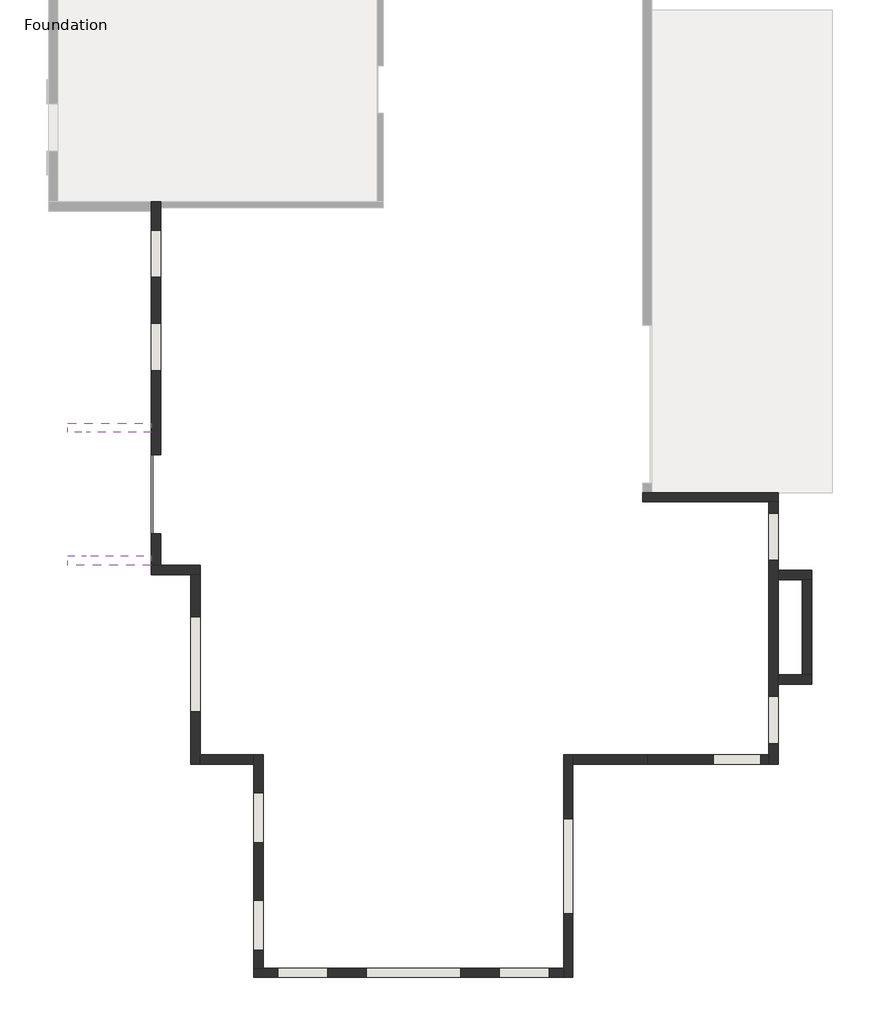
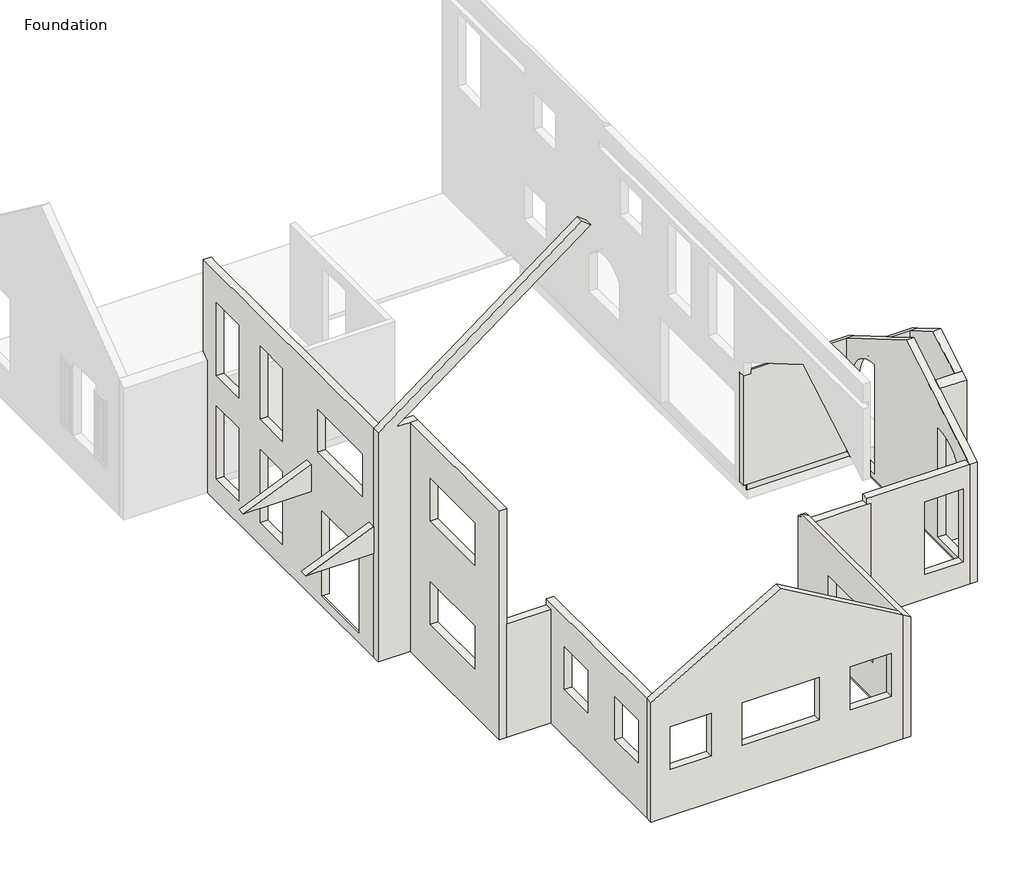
# One storey, part 1 of 2: 16 walls.
"""IFC4 building model written with IfcOpenShell, lengths in millimetres."""

from ifc_helpers import new_model, si_unit, frame, origin, place, context, project, spatial, polyline, circle_curve, outline, extrude, faceted_brep, element, save
from ifc_brep_helpers import plane_surface, revolved_surface, advanced_brep

model = new_model("IFC4")

# Units and contexts
model_context = context("Model", 3, world=origin())
ifc_project = project(units=[si_unit("LENGTHUNIT", "METRE", prefix="MILLI")], contexts=[model_context])

# Site, building, storey
site = spatial("IfcSite", under=ifc_project)
building = spatial("IfcBuilding", under=site)
storey = spatial("IfcBuildingStorey", under=building, Name="Foundation", Elevation=-254.0)

# Walls
placement = place(None, origin())
element("IfcWall", 1, ObjectType="Exterior - Wood Siding on Wood Stud", at=placement, inside=storey, context=model_context, shape_type="Brep", body=[
    faceted_brep([(1364.2519008, -3611.7827303, -254.0), (1821.4519008, -3611.7827303, -254.0), (2005.6019008, -3611.7827303, -254.0), (2005.6019008, -3611.7827303, 3724.8041667), (1821.4519008, -3611.7827303, 3724.8041667), (1364.2519008, -3611.7827303, 3724.8041667), (1364.2519008, -3427.6327303, -254.0), (1364.2519008, -3427.6327303, 3617.3833333), (2005.6019008, -3427.6327303, 3617.3833333), (2005.6019008, -3427.6327303, -254.0)], [[[0, 1, 2, 3, 4, 5]], [[6, 7, 8, 9]], [[2, 1, 0, 6, 9]], [[0, 5, 7, 6]], [[3, 2, 9, 8]], [[5, 4, 3, 8, 7]]]),
])
element("IfcWall", 2, ObjectType="Exterior - Wood Siding on Wood Stud", at=placement, inside=storey, context=model_context, shape_type="Brep", body=[
    faceted_brep([(1364.2519008, -5624.7327303, -254.0), (2005.6019008, -5624.7327303, -254.0), (2005.6019008, -5624.7327303, 3643.3125), (1364.2519008, -5624.7327303, 3643.3125), (1364.2519008, -5440.5827303, -254.0), (1364.2519008, -5440.5827303, 3750.7333333), (1821.4519008, -5440.5827303, 3750.7333333), (2005.6019008, -5440.5827303, 3750.7333333), (2005.6019008, -5440.5827303, -254.0), (1821.4519008, -5440.5827303, -254.0)], [[[0, 1, 2, 3]], [[4, 5, 6, 7, 8, 9]], [[1, 0, 4, 9, 8]], [[0, 3, 5, 4]], [[2, 1, 8, 7]], [[3, 2, 7, 6, 5]]]),
])
element("IfcWall", 3, ObjectType="Exterior - Wood Siding on Wood Stud", at=placement, inside=storey, context=model_context, shape_type="SweptSolid", body=[
    extrude(outline(polyline([(-5440.5827303, -254.0), (-5440.5827303, 3750.7333333), (-4548.4077303, 4271.16875), (-3611.7827303, 3724.8041667), (-3611.7827303, -254.0), (-5440.5827303, -254.0)])), frame((1821.4519008, 0.0, 0.0), z_axis=(1.0, 0.0, 0.0), x_axis=(0.0, 1.0, 0.0)), (0.0, 0.0, 1.0), 184.15),
])
element("IfcWall", 4, ObjectType="Siding For My House", at=placement, inside=storey, context=model_context, shape_type="Brep", body=[
    faceted_brep([(1364.2519008, -2110.0077303, -254.0), (1364.2519008, -2110.0077303, 2848.76875), (1183.2769008, -2110.0077303, 2848.76875), (-1074.1480992, -2110.0077303, 2848.76875), (-1074.1480992, -2110.0077303, 2743.2), (-1255.1230992, -2110.0077303, 2743.2), (-1255.1230992, -2110.0077303, 2590.8), (-1255.1230992, -2110.0077303, 2438.4), (-1255.1230992, -2110.0077303, 0.0), (1183.2769008, -2110.0077303, 0.0), (1335.6769008, -2110.0077303, 0.0), (1335.6769008, -2110.0077303, -254.0), (1364.2519008, -1929.0327303, 2743.2), (1364.2519008, -1929.0327303, -254.0), (-1074.1480992, -1929.0327303, -254.0), (-1102.7230992, -1929.0327303, -254.0), (-1102.7230992, -1929.0327303, 0.0), (-1255.1230992, -1929.0327303, 0.0), (-1255.1230992, -1929.0327303, 2743.2), (-1074.1480992, -1929.0327303, 2743.2), (-1102.7230992, -1957.6077303, 0.0), (1335.6769008, -1957.6077303, 0.0), (-1255.1230992, -1995.7077303, 0.0), (-1102.7230992, -1957.6077303, -254.0), (1335.6769008, -1957.6077303, -254.0)], [[[0, 1, 2, 3, 4, 5, 6, 7, 8, 9, 10, 11]], [[12, 13, 14, 15, 16, 17, 18, 19]], [[1, 0, 13, 12]], [[20, 21, 10, 9, 8, 22, 17, 16]], [[21, 20, 23, 24]], [[21, 24, 11, 10]], [[3, 2, 1, 12, 19]], [[23, 20, 16, 15]], [[13, 0, 11, 24, 23, 15, 14]], [[19, 18, 5, 4]], [[19, 4, 3]], [[5, 18, 17, 22, 8, 7, 6]]]),
])
element("IfcWall", 5, ObjectType="Siding For My House", at=placement, inside=storey, context=model_context, shape_type="AdvancedBrep", body=[
    advanced_brep(
    [(1183.2769008, -7167.7827303, -254.0), (1183.2769008, -7167.7827303, 2743.2), (1183.2769008, -4548.4077303, 4271.16875), (1183.2769008, -2110.0077303, 2848.76875), (1183.2769008, -2110.0077303, 0.0), (1183.2769008, -3611.7827303, 0.0), (1183.2769008, -3792.7577303, 0.0), (1183.2769008, -5259.6077303, 0.0), (1183.2769008, -5440.5827303, 0.0), (1183.2769008, -7139.2077303, 0.0), (1183.2769008, -7139.2077303, -254.0), (1183.2769008, -6772.4952303, 127.0), (1183.2769008, -5858.0952303, 127.0), (1183.2769008, -5858.0952303, 2870.2), (1183.2769008, -6772.4952303, 1955.8), (1183.2769008, -3238.7202303, 125.65196), (1183.2769008, -2324.3202303, 125.65196), (1183.2769008, -2324.3202303, 1954.45196), (1183.2769008, -3238.7202303, 2868.85196), (1364.2519008, -7167.7827303, -254.0), (1364.2519008, -5624.7327303, -254.0), (1364.2519008, -5440.5827303, -254.0), (1364.2519008, -3611.7827303, -254.0), (1364.2519008, -3427.6327303, -254.0), (1364.2519008, -2110.0077303, -254.0), (1364.2519008, -2110.0077303, 2848.76875), (1364.2519008, -3427.6327303, 3617.3833333), (1364.2519008, -3611.7827303, 3724.8041667), (1364.2519008, -4548.4077303, 4271.16875), (1364.2519008, -5440.5827303, 3750.7333333), (1364.2519008, -5624.7327303, 3643.3125), (1364.2519008, -7167.7827303, 2743.2), (1364.2519008, -5858.0952303, 127.0), (1364.2519008, -6772.4952303, 127.0), (1364.2519008, -6772.4952303, 1955.8), (1364.2519008, -5858.0952303, 2870.2), (1364.2519008, -2324.3202303, 125.65196), (1364.2519008, -3238.7202303, 125.65196), (1364.2519008, -3238.7202303, 2868.85196), (1364.2519008, -2324.3202303, 1954.45196), (1335.6769008, -7139.2077303, -254.0), (1335.6769008, -2110.0077303, -254.0), (1335.6769008, -2110.0077303, 0.0), (1335.6769008, -7139.2077303, 0.0)],
    [
        (0, 1),
        (1, 2),
        (2, 3),
        (3, 4),
        (4, 5),
        (5, 6),
        (6, 7),
        (7, 8),
        (8, 9),
        (9, 10),
        (10, 0),
        (11, 12),
        (12, 13),
        (13, 14, circle_curve(frame((1183.2769008, -5858.0952303, 1955.8), z_axis=(1.0, 0.0, 0.0), x_axis=(0.0, -1.0, 0.0)), 914.4)),
        (14, 11),
        (15, 16),
        (16, 17),
        (17, 18, circle_curve(frame((1183.2769008, -3238.7202303, 1954.45196), z_axis=(1.0, 0.0, 0.0), x_axis=(0.0, 1.0, 0.0)), 914.4)),
        (18, 15),
        (19, 20),
        (20, 21),
        (21, 22),
        (22, 23),
        (23, 24),
        (24, 25),
        (25, 26),
        (26, 27),
        (27, 28),
        (28, 29),
        (29, 30),
        (30, 31),
        (31, 19),
        (32, 33),
        (33, 34),
        (34, 35, circle_curve(frame((1364.2519008, -5858.0952303, 1955.8), z_axis=(-1.0, 0.0, 0.0), x_axis=(0.0, -1.0, 0.0)), 914.4)),
        (35, 32),
        (36, 37),
        (37, 38),
        (38, 39, circle_curve(frame((1364.2519008, -3238.7202303, 1954.45196), z_axis=(-1.0, 0.0, 0.0), x_axis=(0.0, 1.0, 0.0)), 914.4)),
        (39, 36),
        (19, 0),
        (10, 40),
        (40, 41),
        (41, 24),
        (3, 25),
        (41, 42),
        (42, 4),
        (31, 1),
        (42, 43),
        (43, 9),
        (40, 43),
        (32, 12),
        (11, 33),
        (14, 34),
        (13, 35),
        (15, 37),
        (36, 16),
        (39, 17),
        (38, 18),
        (2, 28),
    ],
    [
        plane_surface(frame((1183.2769008, -4073.1263801, -254.0), z_axis=(-1.0, 0.0, 0.0), x_axis=(0.0, -1.0, 0.0))),
        plane_surface(frame((1364.2519008, -4073.1263801, -254.0), z_axis=(1.0, 0.0, 0.0), x_axis=(0.0, 1.0, 0.0))),
        plane_surface(frame((1183.2769008, -2019.5202303, -254.0), z_axis=(0.0, 0.0, -1.0), x_axis=(1.0, 0.0, 0.0))),
        plane_surface(frame((6545.8519008, -2110.0077303, -254.0), z_axis=(0.0, 1.0, 0.0), x_axis=(1.0, 0.0, 0.0))),
        plane_surface(frame((9289.0519008, -7167.7827303, -254.0), z_axis=(0.0, -1.0, 0.0), x_axis=(1.0, 0.0, 0.0))),
        plane_surface(frame((-10703.9230992, 3665.3172697, 0.0), z_axis=(0.0, 0.0, -1.0), x_axis=(-1.0, 0.0, 0.0))),
        plane_surface(frame((1335.6769008, -1957.6077303, -254.0), z_axis=(-1.0, 0.0, 0.0), x_axis=(0.0, 0.0, 1.0))),
        plane_surface(frame((1335.6769008, -7139.2077303, -254.0), z_axis=(0.0, 1.0, 0.0), x_axis=(0.0, 0.0, 1.0))),
        plane_surface(frame((-340.7230992, -5858.0952303, 127.0), z_axis=(0.0, 0.0, 1.0), x_axis=(1.0, 0.0, 0.0))),
        plane_surface(frame((-340.7230992, -6772.4952303, 127.0), z_axis=(0.0, 1.0, 0.0), x_axis=(1.0, 0.0, 0.0))),
        revolved_surface(polyline([(1183.2769008, -6772.4952303, 1955.8), (1364.2519008, -6772.4952303, 1955.8)]), (2707.2769008, -5858.0952303, 1955.8), (-1.0, 0.0, 0.0)),
        plane_surface(frame((-340.7230992, -5858.0952303, 2870.2), z_axis=(0.0, -1.0, 0.0), x_axis=(1.0, 0.0, 0.0))),
        plane_surface(frame((2707.2769008, -3238.7202303, 125.65196), z_axis=(0.0, 0.0, 1.0), x_axis=(-1.0, 0.0, 0.0))),
        plane_surface(frame((2707.2769008, -2324.3202303, 125.65196), z_axis=(0.0, -1.0, 0.0), x_axis=(-1.0, 0.0, 0.0))),
        revolved_surface(polyline([(1364.2519008, -2324.3202303, 1954.45196), (1183.2769008, -2324.3202303, 1954.45196)]), (-340.7230992, -3238.7202303, 1954.45196), (1.0, 0.0, 0.0)),
        plane_surface(frame((2707.2769008, -3238.7202303, 2868.85196), z_axis=(0.0, 1.0, 0.0), x_axis=(-1.0, 0.0, 0.0))),
        plane_surface(frame((1364.2519008, -1624.2327303, 2565.4), z_axis=(0.0, 0.5038710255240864, 0.8637789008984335), x_axis=(-1.0, 0.0, 0.0))),
        plane_surface(frame((-1074.1480992, -7472.5827303, 2565.4), z_axis=(0.0, -0.5038710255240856, 0.8637789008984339), x_axis=(1.0, 0.0, 0.0))),
    ],
    [
        (0, [[1, 2, 3, 4, 5, 6, 7, 8, 9, 10, 11], [12, 13, 14, 15], [16, 17, 18, 19]]),
        (1, [[20, 21, 22, 23, 24, 25, 26, 27, 28, 29, 30, 31, 32], [33, 34, 35, 36], [37, 38, 39, 40]]),
        (2, [[-24, -23, -22, -21, -20, 41, -11, 42, 43, 44]]),
        (3, [[45, -25, -44, 46, 47, -4]]),
        (4, [[-1, -41, -32, 48]]),
        (5, [[49, 50, -9, -8, -7, -6, -5, -47]]),
        (6, [[51, -49, -46, -43]]),
        (7, [[-51, -42, -10, -50]]),
        (8, [[52, -12, 53, -33]]),
        (9, [[54, -34, -53, -15]]),
        (10, [[-54, -14, 55, -35]]),
        (11, [[-52, -36, -55, -13]]),
        (12, [[56, -37, 57, -16]]),
        (13, [[58, -17, -57, -40]]),
        (14, [[-58, -39, 59, -18]]),
        (15, [[-56, -19, -59, -38]]),
        (16, [[-45, -3, 60, -28, -27, -26]]),
        (17, [[-48, -31, -30, -29, -60, -2]]),
    ],
),
])
element("IfcWall", 6, ObjectType="Siding For My House", at=placement, inside=storey, context=model_context, shape_type="Brep", body=[
    faceted_brep([(-1255.1230992, -6986.8077303, 2743.2), (-1074.1480992, -6986.8077303, 2743.2), (1183.2769008, -6986.8077303, 2743.2), (1183.2769008, -6986.8077303, 0.0), (-1164.6355992, -6986.8077303, 0.0), (-1164.6355992, -6986.8077303, 2590.8), (-1255.1230992, -6986.8077303, 2590.8), (111.7144008, -6986.8077303, 2184.4), (111.7144008, -6986.8077303, 355.6), (1026.1144008, -6986.8077303, 355.6), (1026.1144008, -6986.8077303, 2184.4), (-1164.6355992, -7167.7827303, -254.0), (1183.2769008, -7167.7827303, -254.0), (1183.2769008, -7167.7827303, 2743.2), (-1074.1480992, -7167.7827303, 2743.2), (-1255.1230992, -7167.7827303, 2743.2), (-1255.1230992, -7167.7827303, 2590.8), (-1164.6355992, -7167.7827303, 2590.8), (111.7144008, -7167.7827303, 355.6), (111.7144008, -7167.7827303, 2184.4), (1026.1144008, -7167.7827303, 2184.4), (1026.1144008, -7167.7827303, 355.6), (-1164.6355992, -7139.2077303, -254.0), (-1016.9980992, -7139.2077303, -254.0), (1183.2769008, -7139.2077303, -254.0), (1183.2769008, -7139.2077303, 0.0), (-1016.9980992, -7139.2077303, 0.0), (-1164.6355992, -7139.2077303, 0.0)], [[[0, 1, 2, 3, 4, 5, 6], [7, 8, 9, 10]], [[11, 12, 13, 14, 15, 16, 17], [18, 19, 20, 21]], [[12, 11, 22, 23, 24]], [[2, 1, 0, 15, 14, 13]], [[2, 13, 12, 24, 25, 3]], [[25, 26, 27, 4, 3]], [[23, 26, 25, 24]], [[26, 23, 22, 27]], [[7, 19, 18, 8]], [[8, 18, 21, 9]], [[20, 10, 9, 21]], [[19, 7, 10, 20]], [[11, 17, 5, 4, 27, 22]], [[6, 5, 17, 16]], [[0, 6, 16, 15]]]),
])
element("IfcWall", 7, ObjectType="Siding For My House", at=placement, inside=storey, context=model_context, shape_type="Brep", body=[
    faceted_brep([(-2779.1230992, -11282.5827303, -254.0), (-2779.1230992, -11282.5827303, 2848.76875), (-2779.1230992, -11101.6077303, 2848.76875), (-2779.1230992, -7101.1077303, 2848.76875), (-2779.1230992, -7101.1077303, 2743.2), (-2779.1230992, -6986.8077303, 2743.2), (-2779.1230992, -6986.8077303, 2438.4), (-2779.1230992, -6986.8077303, 0.0), (-2779.1230992, -7088.4077303, 0.0), (-2779.1230992, -7088.4077303, 6.35), (-2779.1230992, -7101.1077303, 6.35), (-2779.1230992, -11101.6077303, 6.35), (-2779.1230992, -11114.3077303, 6.35), (-2779.1230992, -11114.3077303, 0.0), (-2779.1230992, -11254.0077303, 0.0), (-2779.1230992, -11254.0077303, -254.0), (-2779.1230992, -8223.4702303, 914.4), (-2779.1230992, -8223.4702303, 1981.2), (-2779.1230992, -10052.2702303, 1981.2), (-2779.1230992, -10052.2702303, 914.4), (-2598.1480992, -11282.5827303, 2743.2), (-2598.1480992, -11282.5827303, -254.0), (-2598.1480992, -7167.7827303, -254.0), (-2598.1480992, -7139.2077303, -254.0), (-2598.1480992, -7139.2077303, 0.0), (-2598.1480992, -6986.8077303, 0.0), (-2598.1480992, -6986.8077303, 2590.8), (-2598.1480992, -6986.8077303, 2743.2), (-2598.1480992, -7101.1077303, 2743.2), (-2598.1480992, -8223.4702303, 1981.2), (-2598.1480992, -8223.4702303, 914.4), (-2598.1480992, -10052.2702303, 914.4), (-2598.1480992, -10052.2702303, 1981.2), (-2626.7230992, -11254.0077303, -254.0), (-2626.7230992, -7139.2077303, -254.0), (-2626.7230992, -7139.2077303, 0.0), (-2626.7230992, -11254.0077303, 0.0), (-2766.4230992, -11114.3077303, 0.0), (-2766.4230992, -7088.4077303, 0.0), (-2766.4230992, -7088.4077303, 6.35), (-2766.4230992, -11114.3077303, 6.35)], [[[0, 1, 2, 3, 4, 5, 6, 7, 8, 9, 10, 11, 12, 13, 14, 15], [16, 17, 18, 19]], [[20, 21, 22, 23, 24, 25, 26, 27, 28], [29, 30, 31, 32]], [[21, 0, 15, 33, 34, 23, 22]], [[1, 0, 21, 20]], [[35, 36, 14, 13, 37, 38, 8, 7, 25, 24]], [[34, 35, 24, 23]], [[36, 35, 34, 33]], [[36, 33, 15, 14]], [[30, 29, 17, 16]], [[31, 30, 16, 19]], [[32, 31, 19, 18]], [[29, 32, 18, 17]], [[39, 40, 12, 11, 10, 9]], [[40, 37, 13, 12]], [[38, 39, 9, 8]], [[40, 39, 38, 37]], [[27, 5, 4, 28]], [[28, 4, 3]], [[3, 2, 1, 20, 28]], [[5, 27, 26, 25, 7, 6]]]),
])
element("IfcWall", 8, ObjectType="Siding For My House", at=placement, inside=storey, context=model_context, shape_type="Brep", body=[
    faceted_brep([(-8751.2980992, -11101.6077303, -254.0), (-8751.2980992, -11101.6077303, 2743.2), (-5674.7230992, -11101.6077303, 4537.86875), (-2779.1230992, -11101.6077303, 2848.76875), (-2779.1230992, -11101.6077303, 6.35), (-8570.3230992, -11101.6077303, 6.35), (-8583.0230992, -11101.6077303, 6.35), (-8583.0230992, -11101.6077303, 0.0), (-8722.7230992, -11101.6077303, 0.0), (-8722.7230992, -11101.6077303, -254.0), (-4760.3230992, -11101.6077303, 914.4), (-4760.3230992, -11101.6077303, 1981.2), (-6589.1230992, -11101.6077303, 1981.2), (-6589.1230992, -11101.6077303, 914.4), (-7325.7230992, -11101.6077303, 914.4), (-7325.7230992, -11101.6077303, 1981.2), (-8290.9230992, -11101.6077303, 1981.2), (-8290.9230992, -11101.6077303, 914.4), (-3058.5230992, -11101.6077303, 914.4), (-3058.5230992, -11101.6077303, 1981.2), (-4023.7230992, -11101.6077303, 1981.2), (-4023.7230992, -11101.6077303, 914.4), (-8751.2980992, -11282.5827303, -254.0), (-2779.1230992, -11282.5827303, -254.0), (-2779.1230992, -11282.5827303, 2848.76875), (-5674.7230992, -11282.5827303, 4537.86875), (-8751.2980992, -11282.5827303, 2743.2), (-4760.3230992, -11282.5827303, 1981.2), (-4760.3230992, -11282.5827303, 914.4), (-6589.1230992, -11282.5827303, 914.4), (-6589.1230992, -11282.5827303, 1981.2), (-7325.7230992, -11282.5827303, 1981.2), (-7325.7230992, -11282.5827303, 914.4), (-8290.9230992, -11282.5827303, 914.4), (-8290.9230992, -11282.5827303, 1981.2), (-3058.5230992, -11282.5827303, 1981.2), (-3058.5230992, -11282.5827303, 914.4), (-4023.7230992, -11282.5827303, 914.4), (-4023.7230992, -11282.5827303, 1981.2), (-8722.7230992, -11254.0077303, -254.0), (-2779.1230992, -11254.0077303, -254.0), (-2779.1230992, -11254.0077303, 0.0), (-2779.1230992, -11114.3077303, 0.0), (-2779.1230992, -11114.3077303, 6.35), (-8722.7230992, -11254.0077303, 0.0), (-8583.0230992, -11114.3077303, 0.0), (-8583.0230992, -11114.3077303, 6.35)], [[[0, 1, 2, 3, 4, 5, 6, 7, 8, 9], [10, 11, 12, 13], [14, 15, 16, 17], [18, 19, 20, 21]], [[22, 23, 24, 25, 26], [27, 28, 29, 30], [31, 32, 33, 34], [35, 36, 37, 38]], [[23, 22, 0, 9, 39, 40]], [[3, 24, 23, 40, 41, 42, 43, 4]], [[1, 0, 22, 26]], [[41, 44, 8, 7, 45, 42]], [[39, 44, 41, 40]], [[44, 39, 9, 8]], [[28, 27, 11, 10]], [[29, 28, 10, 13]], [[30, 29, 13, 12]], [[27, 30, 12, 11]], [[32, 31, 15, 14]], [[33, 32, 14, 17]], [[34, 33, 17, 16]], [[31, 34, 16, 15]], [[36, 35, 19, 18]], [[37, 36, 18, 21]], [[38, 37, 21, 20]], [[35, 38, 20, 19]], [[43, 46, 6, 5, 4]], [[45, 46, 43, 42]], [[46, 45, 7, 6]], [[24, 3, 2, 25]], [[1, 26, 25, 2]]]),
])
element("IfcWall", 9, ObjectType="Siding For My House", at=placement, inside=storey, context=model_context, shape_type="Brep", body=[
    faceted_brep([(-8570.3230992, -6986.8077303, 2743.2), (-8570.3230992, -11101.6077303, 2743.2), (-8570.3230992, -11101.6077303, 6.35), (-8570.3230992, -7101.1077303, 6.35), (-8570.3230992, -6986.8077303, 6.35), (-8570.3230992, -6986.8077303, 2438.4), (-8570.3230992, -8683.8452303, 914.4), (-8570.3230992, -8683.8452303, 1981.2), (-8570.3230992, -7718.6452303, 1981.2), (-8570.3230992, -7718.6452303, 914.4), (-8570.3230992, -10760.2952303, 914.4), (-8570.3230992, -10760.2952303, 1981.2), (-8570.3230992, -9795.0952303, 1981.2), (-8570.3230992, -9795.0952303, 914.4), (-8751.2980992, -11101.6077303, 2743.2), (-8751.2980992, -6986.8077303, 2743.2), (-8751.2980992, -6986.8077303, 2590.8), (-8751.2980992, -6986.8077303, 6.35), (-8751.2980992, -6999.5077303, 6.35), (-8751.2980992, -6999.5077303, 0.0), (-8751.2980992, -7139.2077303, 0.0), (-8751.2980992, -7139.2077303, -254.0), (-8751.2980992, -7167.7827303, -254.0), (-8751.2980992, -11101.6077303, -254.0), (-8751.2980992, -8683.8452303, 1981.2), (-8751.2980992, -8683.8452303, 914.4), (-8751.2980992, -7718.6452303, 914.4), (-8751.2980992, -7718.6452303, 1981.2), (-8751.2980992, -10760.2952303, 1981.2), (-8751.2980992, -10760.2952303, 914.4), (-8751.2980992, -9795.0952303, 914.4), (-8751.2980992, -9795.0952303, 1981.2), (-8722.7230992, -7139.2077303, -254.0), (-8722.7230992, -11101.6077303, -254.0), (-8722.7230992, -11101.6077303, 0.0), (-8583.0230992, -11101.6077303, 0.0), (-8583.0230992, -11101.6077303, 6.35), (-8722.7230992, -7139.2077303, 0.0), (-8583.0230992, -6999.5077303, 0.0), (-8583.0230992, -6999.5077303, 6.35)], [[[0, 1, 2, 3, 4, 5], [6, 7, 8, 9], [10, 11, 12, 13]], [[14, 15, 16, 17, 18, 19, 20, 21, 22, 23], [24, 25, 26, 27], [28, 29, 30, 31]], [[23, 22, 21, 32, 33]], [[1, 0, 15, 14]], [[1, 14, 23, 33, 34, 35, 36, 2]], [[15, 0, 5, 4, 17, 16]], [[34, 37, 20, 19, 38, 35]], [[32, 37, 34, 33]], [[37, 32, 21, 20]], [[25, 24, 7, 6]], [[26, 25, 6, 9]], [[27, 26, 9, 8]], [[24, 27, 8, 7]], [[29, 28, 11, 10]], [[30, 29, 10, 13]], [[31, 30, 13, 12]], [[28, 31, 12, 11]], [[36, 39, 18, 17, 4, 3, 2]], [[38, 39, 36, 35]], [[39, 38, 19, 18]]]),
])
element("IfcWall", 10, ObjectType="Siding For My House", at=placement, inside=storey, context=model_context, shape_type="Brep", body=[
    faceted_brep([(-9789.5230992, -3510.1827303, 5486.4), (-9789.5230992, -7167.7827303, 5486.4), (-9789.5230992, -7167.7827303, 2590.8), (-9789.5230992, -7167.7827303, -254.0), (-9789.5230992, -7139.2077303, -254.0), (-9789.5230992, -7139.2077303, 0.0), (-9789.5230992, -6999.5077303, 0.0), (-9789.5230992, -6999.5077303, 6.35), (-9789.5230992, -3510.1827303, 6.35), (-9789.5230992, -3510.1827303, 2438.4), (-9789.5230992, -7088.4077303, 2438.4), (-9789.5230992, -7088.4077303, 2590.8), (-9789.5230992, -6986.8077303, 2590.8), (-9789.5230992, -3510.1827303, 2590.8), (-9789.5230992, -3510.1827303, 4876.8), (-9789.5230992, -7139.2077303, 4876.8), (-9789.5230992, -7139.2077303, 5029.2), (-9789.5230992, -3510.1827303, 5029.2), (-9789.5230992, -6154.9577303, 914.4), (-9789.5230992, -6154.9577303, 1981.2), (-9789.5230992, -4326.1577303, 1981.2), (-9789.5230992, -4326.1577303, 914.4), (-9789.5230992, -6154.9577303, 3505.2), (-9789.5230992, -6154.9577303, 4572.0), (-9789.5230992, -4326.1577303, 4572.0), (-9789.5230992, -4326.1577303, 3505.2), (-9970.4980992, -3510.1827303, -254.0), (-9970.4980992, -7167.7827303, -254.0), (-9970.4980992, -7167.7827303, 5486.4), (-9970.4980992, -3510.1827303, 5486.4), (-9970.4980992, -6154.9577303, 1981.2), (-9970.4980992, -6154.9577303, 914.4), (-9970.4980992, -4326.1577303, 914.4), (-9970.4980992, -4326.1577303, 1981.2), (-9970.4980992, -6154.9577303, 4572.0), (-9970.4980992, -6154.9577303, 3505.2), (-9970.4980992, -4326.1577303, 3505.2), (-9970.4980992, -4326.1577303, 4572.0), (-9941.9230992, -3510.1827303, -254.0), (-9941.9230992, -7139.2077303, -254.0), (-9941.9230992, -7139.2077303, 0.0), (-9941.9230992, -3510.1827303, 0.0), (-9802.2230992, -3510.1827303, 0.0), (-9802.2230992, -6999.5077303, 0.0), (-9802.2230992, -6999.5077303, 6.35), (-9802.2230992, -3510.1827303, 6.35), (-9941.9230992, -3510.1827303, 2438.4), (-9941.9230992, -7088.4077303, 2438.4), (-9941.9230992, -7088.4077303, 2590.8), (-9941.9230992, -3510.1827303, 2590.8), (-9941.9230992, -3510.1827303, 4876.8), (-9941.9230992, -7139.2077303, 4876.8), (-9941.9230992, -7139.2077303, 5029.2), (-9941.9230992, -3510.1827303, 5029.2)], [[[0, 1, 2, 3, 4, 5, 6, 7, 8, 9, 10, 11, 12, 13, 14, 15, 16, 17], [18, 19, 20, 21], [22, 23, 24, 25]], [[26, 27, 28, 29], [30, 31, 32, 33], [34, 35, 36, 37]], [[27, 26, 38, 39, 4, 3]], [[1, 0, 29, 28]], [[40, 41, 42, 43, 6, 5]], [[40, 39, 38, 41]], [[31, 30, 19, 18]], [[32, 31, 18, 21]], [[33, 32, 21, 20]], [[30, 33, 20, 19]], [[44, 45, 8, 7]], [[44, 43, 42, 45]], [[10, 9, 46, 47]], [[13, 12, 11, 48, 49]], [[48, 47, 46, 49]], [[50, 51, 15, 14]], [[16, 52, 53, 17]], [[52, 51, 50, 53]], [[29, 0, 17, 53, 50, 14, 13, 49, 46, 9, 8, 45, 42, 41, 38, 26]], [[35, 34, 23, 22]], [[36, 35, 22, 25]], [[37, 36, 25, 24]], [[34, 37, 24, 23]], [[1, 28, 27, 3, 2]], [[39, 40, 5, 4]], [[43, 44, 7, 6]], [[47, 48, 11, 10]], [[51, 52, 16, 15]]]),
])
element("IfcWall", 11, ObjectType="Siding For My House", at=placement, inside=storey, context=model_context, shape_type="Brep", body=[
    faceted_brep([(-10275.2980992, -3329.2077303, 5486.4), (-9789.5230992, -3329.2077303, 5486.4), (-9789.5230992, -3329.2077303, 5029.2), (-10551.5230992, -3329.2077303, 5029.2), (-10703.9230992, -3329.2077303, 5029.2), (-10703.9230992, -3329.2077303, 4876.8), (-10551.5230992, -3329.2077303, 4876.8), (-9789.5230992, -3329.2077303, 4876.8), (-9789.5230992, -3329.2077303, 2590.8), (-10551.5230992, -3329.2077303, 2590.8), (-10703.9230992, -3329.2077303, 2590.8), (-10703.9230992, -3329.2077303, 2438.4), (-10551.5230992, -3329.2077303, 2438.4), (-9789.5230992, -3329.2077303, 2438.4), (-9789.5230992, -3329.2077303, 0.0), (-10551.5230992, -3329.2077303, 0.0), (-10703.9230992, -3329.2077303, 0.0), (-10703.9230992, -3329.2077303, -254.0), (-10732.4980992, -3329.2077303, -254.0), (-10732.4980992, -3329.2077303, 5486.4), (-5903.3230992, -3329.2077303, 9108.28125), (-5696.9480992, -3329.2077303, 8953.5), (-10275.2980992, -3329.2077303, 5519.7375), (-9789.5230992, -3510.1827303, 5486.4), (-9970.4980992, -3510.1827303, 5486.4), (-10275.2980992, -3510.1827303, 5486.4), (-10275.2980992, -3510.1827303, 5519.7375), (-5696.9480992, -3510.1827303, 8953.5), (-5903.3230992, -3510.1827303, 9108.28125), (-10732.4980992, -3510.1827303, 5486.4), (-10732.4980992, -3510.1827303, -254.0), (-9970.4980992, -3510.1827303, -254.0), (-9941.9230992, -3510.1827303, -254.0), (-9941.9230992, -3510.1827303, 0.0), (-9802.2230992, -3510.1827303, 0.0), (-9789.5230992, -3510.1827303, 0.0), (-9789.5230992, -3510.1827303, 6.35), (-9789.5230992, -3510.1827303, 2438.4), (-9941.9230992, -3510.1827303, 2438.4), (-9941.9230992, -3510.1827303, 2590.8), (-9789.5230992, -3510.1827303, 2590.8), (-9789.5230992, -3510.1827303, 4876.8), (-9941.9230992, -3510.1827303, 4876.8), (-9941.9230992, -3510.1827303, 5029.2), (-9789.5230992, -3510.1827303, 5029.2), (-9941.9230992, -3481.6077303, 0.0), (-10703.9230992, -3481.6077303, 0.0), (-9941.9230992, -3481.6077303, -254.0), (-10703.9230992, -3481.6077303, -254.0), (-10703.9230992, -3481.6077303, 2438.4), (-9941.9230992, -3481.6077303, 2438.4), (-9941.9230992, -3481.6077303, 2590.8), (-10703.9230992, -3481.6077303, 2590.8), (-9789.5230992, -3443.5077303, 2590.8), (-10703.9230992, -3481.6077303, 4876.8), (-9941.9230992, -3481.6077303, 4876.8), (-9789.5230992, -3443.5077303, 4876.8), (-9941.9230992, -3481.6077303, 5029.2), (-10703.9230992, -3481.6077303, 5029.2)], [[[0, 1, 2, 3, 4, 5, 6, 7, 8, 9, 10, 11, 12, 13, 14, 15, 16, 17, 18, 19, 20, 21, 22]], [[23, 24, 25, 26, 27, 28, 29, 30, 31, 32, 33, 34, 35, 36, 37, 38, 39, 40, 41, 42, 43, 44]], [[45, 46, 16, 15, 14, 35, 34, 33]], [[46, 45, 47, 48]], [[46, 48, 17, 16]], [[49, 50, 38, 37, 13, 12, 11]], [[51, 52, 10, 9, 8, 53, 40, 39]], [[50, 49, 52, 51]], [[52, 49, 11, 10]], [[54, 55, 42, 41, 56, 7, 6, 5]], [[57, 58, 4, 3, 2, 44, 43]], [[55, 54, 58, 57]], [[58, 54, 5, 4]], [[48, 47, 32, 31, 30, 18, 17]], [[1, 0, 25, 24, 23]], [[21, 20, 28, 27]], [[22, 21, 27, 26]], [[0, 22, 26, 25]], [[47, 45, 33, 32]], [[50, 51, 39, 38]], [[55, 57, 43, 42]], [[1, 23, 44, 2]], [[35, 14, 13, 37, 36]], [[40, 53, 8, 7, 56, 41]], [[18, 30, 29, 19]], [[20, 19, 29, 28]]]),
])
element("IfcWall", 12, ObjectType="Siding For My House", at=placement, inside=storey, context=model_context, shape_type="Brep", body=[
    faceted_brep([(-10732.4980992, -3151.4077303, 2362.2), (-11902.1335443, -3151.4077303, 2362.2), (-12074.2876541, -3151.4077303, 2362.2), (-12343.8105992, -3151.4077303, 2362.2), (-10732.4980992, -3151.4077303, 3033.5802083), (-10732.4980992, -3332.3827303, 2362.2), (-10732.4980992, -3332.3827303, 3033.5802083), (-12343.8105992, -3332.3827303, 2362.2)], [[[0, 1, 2, 3, 4]], [[5, 6, 7]], [[3, 2, 1, 0, 5, 7]], [[0, 4, 6, 5]], [[4, 3, 7, 6]]]),
])
element("IfcWall", 13, ObjectType="Siding For My House", at=placement, inside=storey, context=model_context, shape_type="Brep", body=[
    faceted_brep([(-12343.8105992, -770.1577303, 2362.2), (-12069.962996, -770.1577303, 2362.2), (-11906.4582025, -770.1577303, 2362.2), (-10732.4980992, -770.1577303, 2362.2), (-10732.4980992, -770.1577303, 3033.5802083), (-12343.8105992, -589.1827303, 2362.2), (-10732.4980992, -589.1827303, 3033.5802083), (-10732.4980992, -589.1827303, 2362.2)], [[[0, 1, 2, 3, 4]], [[5, 6, 7]], [[3, 2, 1, 0, 5, 7]], [[4, 3, 7, 6]], [[0, 4, 6, 5]]]),
])
element("IfcWall", 14, ObjectType="Siding For My House", at=placement, inside=storey, context=model_context, shape_type="Brep", body=[
    faceted_brep([(-1164.6355992, -6986.8077303, -254.0), (-2598.1480992, -6986.8077303, -254.0), (-2598.1480992, -6986.8077303, 0.0), (-2598.1480992, -6986.8077303, 2590.8), (-1255.1230992, -6986.8077303, 2590.8), (-1164.6355992, -6986.8077303, 2590.8), (-1164.6355992, -6986.8077303, 0.0), (-1164.6355992, -7167.7827303, -254.0), (-1164.6355992, -7167.7827303, 2590.8), (-1255.1230992, -7167.7827303, 2590.8), (-2598.1480992, -7167.7827303, 2590.8), (-2598.1480992, -7167.7827303, -254.0), (-1164.6355992, -7139.2077303, -254.0), (-2598.1480992, -7139.2077303, -254.0)], [[[0, 1, 2, 3, 4, 5, 6]], [[7, 8, 9, 10, 11]], [[1, 0, 12, 7, 11, 13]], [[0, 6, 5, 8, 7, 12]], [[1, 13, 11, 10, 3, 2]], [[5, 4, 3, 10, 9, 8]]]),
])
element("IfcWall", 15, ObjectType="Siding For My House", at=placement, inside=storey, context=model_context, shape_type="Brep", body=[
    faceted_brep([(-8751.2980992, -6986.8077303, 2590.8), (-8751.2980992, -6986.8077303, 6.35), (-8751.2980992, -6986.8077303, -254.0), (-9789.5230992, -6986.8077303, -254.0), (-9789.5230992, -6986.8077303, 2590.8), (-8751.2980992, -7167.7827303, -254.0), (-8751.2980992, -7167.7827303, 2590.8), (-9789.5230992, -7167.7827303, 2590.8), (-9789.5230992, -7167.7827303, -254.0), (-8751.2980992, -7139.2077303, -254.0), (-9789.5230992, -7139.2077303, -254.0)], [[[0, 1, 2, 3, 4]], [[5, 6, 7, 8]], [[3, 2, 9, 5, 8, 10]], [[4, 3, 10, 8, 7]], [[0, 6, 5, 9, 2, 1]], [[0, 4, 7, 6]]]),
])
element("IfcWall", 16, ObjectType="Stone Siding", at=placement, inside=storey, context=model_context, shape_type="Brep", body=[
    faceted_brep([(-10551.5230992, 3665.3172697, 5486.4), (-10551.5230992, 3484.3422697, 5486.4), (-10551.5230992, -3329.2077303, 5486.4), (-10551.5230992, -3329.2077303, 5029.2), (-10551.5230992, 3636.7422697, 5029.2), (-10551.5230992, 3636.7422697, 4876.8), (-10551.5230992, 20.4172697, 4876.8), (-10551.5230992, -93.8827303, 4876.8), (-10551.5230992, -3329.2077303, 4876.8), (-10551.5230992, -3329.2077303, 2590.8), (-10551.5230992, 3484.3422697, 2590.8), (-10551.5230992, 3616.1047697, 2590.8), (-10551.5230992, 3616.1047697, 2438.4), (-10551.5230992, 3560.5422697, 2438.4), (-10551.5230992, -3329.2077303, 2438.4), (-10551.5230992, -3329.2077303, 0.0), (-10551.5230992, -2722.7827303, 0.0), (-10551.5230992, -2722.7827303, 2133.6), (-10551.5230992, -1198.7827303, 2133.6), (-10551.5230992, -1198.7827303, 0.0), (-10551.5230992, -93.8827303, 0.0), (-10551.5230992, 20.4172697, 0.0), (-10551.5230992, 3665.3172697, 0.0), (-10551.5230992, 3665.3172697, -254.0), (-10551.5230992, 3681.1922697, -254.0), (-10551.5230992, 3681.1922697, 2438.4), (-10551.5230992, 3681.1922697, 3183.73125), (-10551.5230992, 3665.3172697, 3183.73125), (-10551.5230992, 3133.5047697, 2133.6), (-10551.5230992, 3133.5047697, 304.8), (-10551.5230992, 2219.1047697, 304.8), (-10551.5230992, 2219.1047697, 2133.6), (-10551.5230992, 1334.8672697, 2133.6), (-10551.5230992, 1334.8672697, 304.8), (-10551.5230992, 420.4672697, 304.8), (-10551.5230992, 420.4672697, 2133.6), (-10551.5230992, 3133.5047697, 4724.4), (-10551.5230992, 3133.5047697, 2895.6), (-10551.5230992, 2219.1047697, 2895.6), (-10551.5230992, 2219.1047697, 4724.4), (-10551.5230992, 1334.8672697, 4724.4), (-10551.5230992, 1334.8672697, 2895.6), (-10551.5230992, 420.4672697, 2895.6), (-10551.5230992, 420.4672697, 4724.4), (-10551.5230992, -2864.0702303, 3505.2), (-10551.5230992, -2864.0702303, 4572.0), (-10551.5230992, -1035.2702303, 4572.0), (-10551.5230992, -1035.2702303, 3505.2), (-10732.4980992, 3681.1922697, -254.0), (-10732.4980992, 3500.2172697, -254.0), (-10732.4980992, -3329.2077303, -254.0), (-10732.4980992, -3329.2077303, 5486.4), (-10732.4980992, 3665.3172697, 5486.4), (-10732.4980992, 3665.3172697, 3183.73125), (-10732.4980992, 3681.1922697, 3183.73125), (-10732.4980992, -2722.7827303, 2133.6), (-10732.4980992, -2722.7827303, 0.0), (-10732.4980992, -1198.7827303, 0.0), (-10732.4980992, -1198.7827303, 2133.6), (-10732.4980992, 3133.5047697, 304.8), (-10732.4980992, 3133.5047697, 2133.6), (-10732.4980992, 2219.1047697, 2133.6), (-10732.4980992, 2219.1047697, 304.8), (-10732.4980992, 1334.8672697, 304.8), (-10732.4980992, 1334.8672697, 2133.6), (-10732.4980992, 420.4672697, 2133.6), (-10732.4980992, 420.4672697, 304.8), (-10732.4980992, 3133.5047697, 2895.6), (-10732.4980992, 3133.5047697, 4724.4), (-10732.4980992, 2219.1047697, 4724.4), (-10732.4980992, 2219.1047697, 2895.6), (-10732.4980992, 1334.8672697, 2895.6), (-10732.4980992, 1334.8672697, 4724.4), (-10732.4980992, 420.4672697, 4724.4), (-10732.4980992, 420.4672697, 2895.6), (-10732.4980992, -2864.0702303, 4572.0), (-10732.4980992, -2864.0702303, 3505.2), (-10732.4980992, -1035.2702303, 3505.2), (-10732.4980992, -1035.2702303, 4572.0), (-10703.9230992, 3665.3172697, -254.0), (-10703.9230992, -3329.2077303, -254.0), (-10703.9230992, -3329.2077303, 0.0), (-10703.9230992, -2722.7827303, 0.0), (-10703.9230992, 3665.3172697, 0.0), (-10703.9230992, -1198.7827303, 0.0), (-10703.9230992, 3616.1047697, 2438.4), (-10703.9230992, -3329.2077303, 2438.4), (-10703.9230992, -3329.2077303, 2590.8), (-10703.9230992, 3616.1047697, 2590.8), (-10703.9230992, 3636.7422697, 4876.8), (-10703.9230992, -3329.2077303, 4876.8), (-10703.9230992, -3329.2077303, 5029.2), (-10703.9230992, 3636.7422697, 5029.2)], [[[0, 1, 2, 3, 4, 5, 6, 7, 8, 9, 10, 11, 12, 13, 14, 15, 16, 17, 18, 19, 20, 21, 22, 23, 24, 25, 26, 27], [28, 29, 30, 31], [32, 33, 34, 35], [36, 37, 38, 39], [40, 41, 42, 43], [44, 45, 46, 47]], [[48, 49, 50, 51, 52, 53, 54], [55, 56, 57, 58], [59, 60, 61, 62], [63, 64, 65, 66], [67, 68, 69, 70], [71, 72, 73, 74], [75, 76, 77, 78]], [[50, 49, 48, 24, 23, 79, 80]], [[2, 1, 0, 52, 51]], [[16, 15, 81, 82]], [[83, 22, 21, 20, 19, 84]], [[83, 79, 23, 22]], [[79, 83, 84, 82, 81, 80]], [[17, 16, 82, 56, 55]], [[18, 17, 55, 58]], [[19, 18, 58, 57, 84]], [[57, 56, 82, 84]], [[85, 86, 14, 13, 12]], [[87, 88, 11, 10, 9]], [[85, 88, 87, 86]], [[88, 85, 12, 11]], [[29, 28, 60, 59]], [[30, 29, 59, 62]], [[31, 30, 62, 61]], [[28, 31, 61, 60]], [[33, 32, 64, 63]], [[34, 33, 63, 66]], [[35, 34, 66, 65]], [[32, 35, 65, 64]], [[5, 89, 90, 8, 7, 6]], [[91, 92, 4, 3]], [[89, 92, 91, 90]], [[92, 89, 5, 4]], [[27, 26, 54, 53]], [[24, 48, 54, 26, 25]], [[52, 0, 27, 53]], [[37, 36, 68, 67]], [[38, 37, 67, 70]], [[39, 38, 70, 69]], [[36, 39, 69, 68]], [[41, 40, 72, 71]], [[42, 41, 71, 74]], [[43, 42, 74, 73]], [[40, 43, 73, 72]], [[76, 75, 45, 44]], [[77, 76, 44, 47]], [[78, 77, 47, 46]], [[75, 78, 46, 45]], [[2, 51, 50, 80, 81, 15, 14, 86, 87, 9, 8, 90, 91, 3]]]),
])

save(model, "model.ifc")
